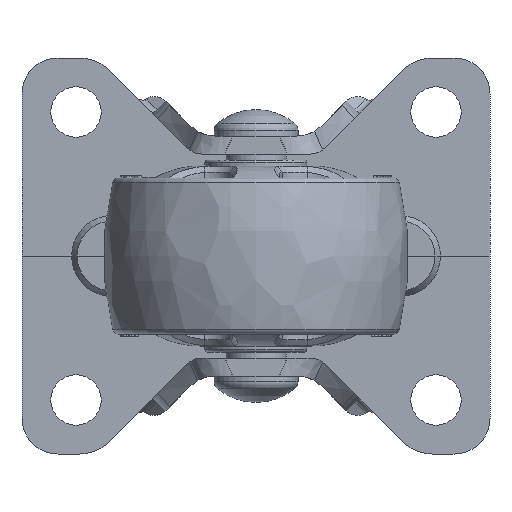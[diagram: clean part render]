
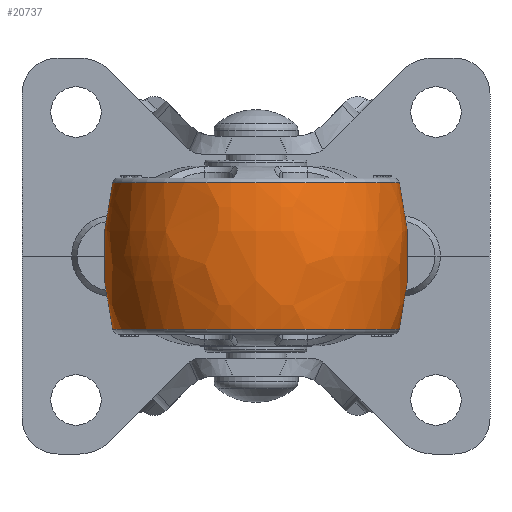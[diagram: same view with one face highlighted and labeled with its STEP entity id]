
A CAD part, front view. The second image highlights one B-rep face of the part: STEP entity #20737.
In plain terms, the highlighted free-form (B-spline) face has degree [3, 3] with [7, 4] control points.
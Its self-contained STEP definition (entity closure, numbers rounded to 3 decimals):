
#20603=CARTESIAN_POINT('',(-12.3,0.,0.));
#20604=DIRECTION('',(0.,1.,0.));
#20605=DIRECTION('',(0.97,0.,0.245));
#20606=AXIS2_PLACEMENT_3D('',#20603,#20604,#20605);
#20608=CARTESIAN_POINT('',(12.3,0.,0.));
#20609=DIRECTION('',(0.,-1.,0.));
#20610=DIRECTION('',(-0.97,0.,0.245));
#20611=AXIS2_PLACEMENT_3D('',#20608,#20609,#20610);
#20613=CARTESIAN_POINT('',(0.,0.,6.122));
#20614=DIRECTION('',(0.,0.,-1.));
#20615=DIRECTION('',(1.,0.,0.));
#20616=AXIS2_PLACEMENT_3D('',#20613,#20614,#20615);
#20648=CARTESIAN_POINT('',(0.,0.,-6.122));
#20649=DIRECTION('',(0.,0.,-1.));
#20650=DIRECTION('',(1.,0.,0.));
#20651=AXIS2_PLACEMENT_3D('',#20648,#20649,#20650);
#20654=CARTESIAN_POINT('',(11.939,0.,6.122));
#20656=VERTEX_POINT('',#20654);
#20657=CARTESIAN_POINT('',(11.939,0.,-6.122));
#20658=VERTEX_POINT('',#20657);
#20662=CARTESIAN_POINT('',(-11.939,0.,6.122));
#20664=VERTEX_POINT('',#20662);
#20665=CARTESIAN_POINT('',(-11.939,0.,-6.122));
#20666=VERTEX_POINT('',#20665);
#20699=CARTESIAN_POINT('',(-11.854,0.746,
-6.362));
#20700=CARTESIAN_POINT('',(-12.955,0.815,
-2.168));
#20701=CARTESIAN_POINT('',(-12.955,0.815,
2.168));
#20702=CARTESIAN_POINT('',(-11.854,0.746,
6.362));
#20703=CARTESIAN_POINT('',(-12.312,-6.549,
-6.362));
#20704=CARTESIAN_POINT('',(-13.456,-7.157,
-2.168));
#20705=CARTESIAN_POINT('',(-13.456,-7.157,
2.168));
#20706=CARTESIAN_POINT('',(-12.312,-6.549,
6.362));
#20707=CARTESIAN_POINT('',(-7.309,-11.877,
-6.362));
#20708=CARTESIAN_POINT('',(-7.988,-12.981,
-2.168));
#20709=CARTESIAN_POINT('',(-7.988,-12.981,
2.168));
#20710=CARTESIAN_POINT('',(-7.309,-11.877,
6.362));
#20711=CARTESIAN_POINT('',(0.,-11.877,-6.362));
#20712=CARTESIAN_POINT('',(0.,-12.981,-2.168));
#20713=CARTESIAN_POINT('',(0.,-12.981,2.168));
#20714=CARTESIAN_POINT('',(0.,-11.877,6.362));
#20715=CARTESIAN_POINT('',(7.309,-11.877,
-6.362));
#20716=CARTESIAN_POINT('',(7.988,-12.981,
-2.168));
#20717=CARTESIAN_POINT('',(7.988,-12.981,
2.168));
#20718=CARTESIAN_POINT('',(7.309,-11.877,
6.362));
#20719=CARTESIAN_POINT('',(12.312,-6.549,
-6.362));
#20720=CARTESIAN_POINT('',(13.456,-7.157,
-2.168));
#20721=CARTESIAN_POINT('',(13.456,-7.157,
2.168));
#20722=CARTESIAN_POINT('',(12.312,-6.549,
6.362));
#20723=CARTESIAN_POINT('',(11.854,0.746,
-6.362));
#20724=CARTESIAN_POINT('',(12.955,0.815,
-2.168));
#20725=CARTESIAN_POINT('',(12.955,0.815,
2.168));
#20726=CARTESIAN_POINT('',(11.854,0.746,
6.362));
#20727=(BOUNDED_SURFACE()B_SPLINE_SURFACE(3,3,((#20699,#20700,#20701,#20702),(
#20703,#20704,#20705,#20706),(#20707,#20708,#20709,#20710),(#20711,#20712,
#20713,#20714),(#20715,#20716,#20717,#20718),(#20719,#20720,#20721,#20722),(
#20723,#20724,#20725,#20726)),.UNSPECIFIED.,.F.,.F.,.F.)B_SPLINE_SURFACE_WITH_KNOTS((4,3,4),(4,4),(0.,1.,2.),(0.,1.),.UNSPECIFIED.)GEOMETRIC_REPRESENTATION_ITEM()RATIONAL_B_SPLINE_SURFACE(((1.207,1.181,
1.181,1.207),(0.953,0.932,
0.932,0.953),(0.953,0.932,
0.932,0.953),(1.207,1.181,
1.181,1.207),(0.953,0.932,
0.932,0.953),(0.953,0.932,
0.932,0.953),(1.207,1.181,
1.181,1.207)))REPRESENTATION_ITEM('')SURFACE());
#20729=ORIENTED_EDGE('',*,*,#20728,.T.);
#20731=ORIENTED_EDGE('',*,*,#20730,.T.);
#20733=ORIENTED_EDGE('',*,*,#20732,.F.);
#20734=ORIENTED_EDGE('',*,*,#20691,.F.);
#20735=EDGE_LOOP('',(#20729,#20731,#20733,#20734));
#20736=FACE_OUTER_BOUND('',#20735,.F.);
#20607=CIRCLE('',#20606,25.);
#20612=CIRCLE('',#20611,25.);
#20617=CIRCLE('',#20616,11.939);
#20652=CIRCLE('',#20651,11.939);
#20691=EDGE_CURVE('',#20656,#20664,#20617,.T.);
#20728=EDGE_CURVE('',#20656,#20658,#20607,.T.);
#20730=EDGE_CURVE('',#20658,#20666,#20652,.T.);
#20732=EDGE_CURVE('',#20664,#20666,#20612,.T.);
#20737=ADVANCED_FACE('',(#20736),#20727,.T.);
